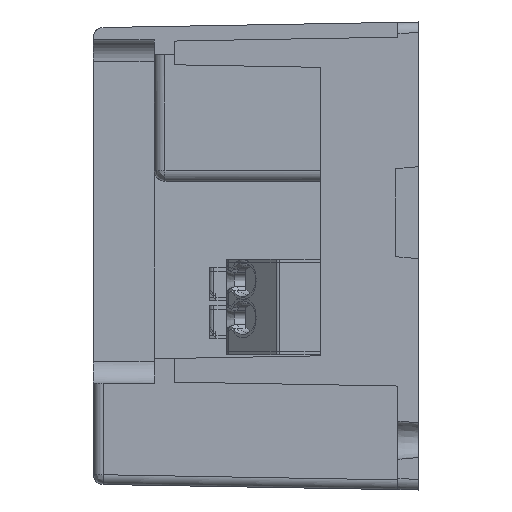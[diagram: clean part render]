
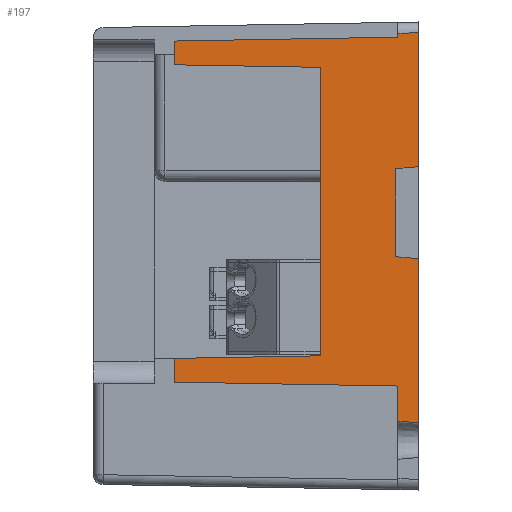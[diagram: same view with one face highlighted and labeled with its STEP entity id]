
A CAD part, left-side view. The second image highlights one B-rep face of the part: STEP entity #197.
In plain terms, the highlighted planar face has unit normal (-1, 0.018, 0).
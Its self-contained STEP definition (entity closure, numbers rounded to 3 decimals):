
#45 = DIRECTION ( 'NONE',  ( -0.017, -0.996, -0.087 ) ) ;
#197 = ADVANCED_FACE ( 'NONE', ( #11806 ), #32212, .T. ) ;
#217 = CARTESIAN_POINT ( 'NONE',  ( -48.5, 0., 8.245 ) ) ;
#605 = VERTEX_POINT ( 'NONE', #20119 ) ;
#730 = CARTESIAN_POINT ( 'NONE',  ( -48.343, 9., -9.214 ) ) ;
#870 = VECTOR ( 'NONE', #31790, 1000. ) ;
#947 = CARTESIAN_POINT ( 'NONE',  ( -48.343, 9., -9.214 ) ) ;
#1086 = CARTESIAN_POINT ( 'NONE',  ( -48.5, 0., -0.245 ) ) ;
#1111 = CARTESIAN_POINT ( 'NONE',  ( -48.107, 22.5, 17.65 ) ) ;
#1253 = EDGE_CURVE ( 'NONE', #9245, #27308, #31420, .T. ) ;
#1418 = EDGE_CURVE ( 'NONE', #3317, #21818, #9417, .T. ) ;
#1659 = ORIENTED_EDGE ( 'NONE', *, *, #13571, .T. ) ;
#1707 = CARTESIAN_POINT ( 'NONE',  ( -48.107, 22.5, -9.45 ) ) ;
#2624 = ORIENTED_EDGE ( 'NONE', *, *, #23118, .T. ) ;
#3317 = VERTEX_POINT ( 'NONE', #32512 ) ;
#3569 = ORIENTED_EDGE ( 'NONE', *, *, #30100, .T. ) ;
#3661 = ORIENTED_EDGE ( 'NONE', *, *, #1253, .T. ) ;
#4445 = EDGE_CURVE ( 'NONE', #10656, #32603, #29841, .T. ) ;
#4734 = ORIENTED_EDGE ( 'NONE', *, *, #27385, .T. ) ;
#4932 = VECTOR ( 'NONE', #16494, 1000. ) ;
#5038 = EDGE_CURVE ( 'NONE', #27308, #28873, #25327, .T. ) ;
#5562 = EDGE_CURVE ( 'NONE', #13854, #21818, #29356, .T. ) ;
#5897 = LINE ( 'NONE', #947, #26436 ) ;
#6393 = VECTOR ( 'NONE', #25534, 1000. ) ;
#7340 = CARTESIAN_POINT ( 'NONE',  ( -48.467, 1.9, 20.202 ) ) ;
#7711 = EDGE_CURVE ( 'NONE', #25930, #605, #19741, .T. ) ;
#7887 = LINE ( 'NONE', #20974, #32109 ) ;
#7891 = CARTESIAN_POINT ( 'NONE',  ( -48.467, 1.9, 0. ) ) ;
#7929 = DIRECTION ( 'NONE',  ( 0., 0., -1. ) ) ;
#8362 = DIRECTION ( 'NONE',  ( -1., 0.017, 0. ) ) ;
#8425 = VECTOR ( 'NONE', #18174, 1000. ) ;
#8471 = DIRECTION ( 'NONE',  ( -0.017, -1., 0. ) ) ;
#8488 = CARTESIAN_POINT ( 'NONE',  ( -48.107, 22.5, 22.925 ) ) ;
#8722 = CARTESIAN_POINT ( 'NONE',  ( -48.107, 22.5, 17.65 ) ) ;
#9060 = ORIENTED_EDGE ( 'NONE', *, *, #18781, .F. ) ;
#9245 = VERTEX_POINT ( 'NONE', #31583 ) ;
#9417 = LINE ( 'NONE', #31304, #32825 ) ;
#9458 = VERTEX_POINT ( 'NONE', #12404 ) ;
#9582 = EDGE_CURVE ( 'NONE', #32603, #19961, #33756, .T. ) ;
#10118 = CARTESIAN_POINT ( 'NONE',  ( -48.463, 2.1, 8.062 ) ) ;
#10656 = VERTEX_POINT ( 'NONE', #31592 ) ;
#10800 = CARTESIAN_POINT ( 'NONE',  ( -48.5, 0., 20.6 ) ) ;
#10914 = VECTOR ( 'NONE', #32582, 1000. ) ;
#11643 = EDGE_CURVE ( 'NONE', #605, #19961, #21728, .T. ) ;
#11806 = FACE_OUTER_BOUND ( 'NONE', #29703, .T. ) ;
#11929 = CARTESIAN_POINT ( 'NONE',  ( -48.107, 22.5, -11.642 ) ) ;
#12077 = CARTESIAN_POINT ( 'NONE',  ( -48.343, 9., 17.414 ) ) ;
#12360 = DIRECTION ( 'NONE',  ( 0., 0., 1. ) ) ;
#12404 = CARTESIAN_POINT ( 'NONE',  ( -48.467, 1.9, -12.002 ) ) ;
#12512 = CARTESIAN_POINT ( 'NONE',  ( -48.5, 0., -15.4 ) ) ;
#12791 = VECTOR ( 'NONE', #12360, 1000. ) ;
#13305 = DIRECTION ( 'NONE',  ( 0., 0., 1. ) ) ;
#13571 = EDGE_CURVE ( 'NONE', #29986, #9458, #13754, .T. ) ;
#13754 = LINE ( 'NONE', #11929, #10914 ) ;
#13854 = VERTEX_POINT ( 'NONE', #15319 ) ;
#14736 = EDGE_CURVE ( 'NONE', #9245, #10656, #23656, .T. ) ;
#14865 = DIRECTION ( 'NONE',  ( 0., 0., 1. ) ) ;
#15159 = DIRECTION ( 'NONE',  ( -0.017, -1., 0.017 ) ) ;
#15319 = CARTESIAN_POINT ( 'NONE',  ( -48.5, 0., -0.245 ) ) ;
#16494 = DIRECTION ( 'NONE',  ( 0.017, 0.996, 0.087 ) ) ;
#16651 = EDGE_CURVE ( 'NONE', #26367, #20553, #7887, .T. ) ;
#18174 = DIRECTION ( 'NONE',  ( 0., 0., 1. ) ) ;
#18347 = CARTESIAN_POINT ( 'NONE',  ( -48.107, 22.5, -11.642 ) ) ;
#18435 = ORIENTED_EDGE ( 'NONE', *, *, #7711, .T. ) ;
#18781 = EDGE_CURVE ( 'NONE', #29986, #22200, #26737, .T. ) ;
#18960 = DIRECTION ( 'NONE',  ( 0.017, 1., -0.017 ) ) ;
#19302 = DIRECTION ( 'NONE',  ( 0., 0., -1. ) ) ;
#19369 = DIRECTION ( 'NONE',  ( -0.017, -1., -0.017 ) ) ;
#19741 = LINE ( 'NONE', #33109, #12791 ) ;
#19961 = VERTEX_POINT ( 'NONE', #217 ) ;
#20119 = CARTESIAN_POINT ( 'NONE',  ( -48.463, 2.1, 8.062 ) ) ;
#20553 = VERTEX_POINT ( 'NONE', #730 ) ;
#20974 = CARTESIAN_POINT ( 'NONE',  ( -48.343, 9., 22.925 ) ) ;
#21096 = AXIS2_PLACEMENT_3D ( 'NONE', #24458, #8362, #8471 ) ;
#21728 = LINE ( 'NONE', #10118, #870 ) ;
#21818 = VERTEX_POINT ( 'NONE', #12512 ) ;
#22200 = VERTEX_POINT ( 'NONE', #1707 ) ;
#22218 = ORIENTED_EDGE ( 'NONE', *, *, #30750, .F. ) ;
#22568 = ORIENTED_EDGE ( 'NONE', *, *, #9582, .F. ) ;
#22733 = VECTOR ( 'NONE', #19369, 1000. ) ;
#22872 = VECTOR ( 'NONE', #15159, 1000. ) ;
#22929 = LINE ( 'NONE', #1086, #4932 ) ;
#23118 = EDGE_CURVE ( 'NONE', #20553, #22200, #5897, .T. ) ;
#23656 = LINE ( 'NONE', #7891, #8425 ) ;
#24239 = DIRECTION ( 'NONE',  ( 0., 0., -1. ) ) ;
#24458 = CARTESIAN_POINT ( 'NONE',  ( -48.5, 0., 22.925 ) ) ;
#24481 = VECTOR ( 'NONE', #24239, 1000. ) ;
#24630 = ORIENTED_EDGE ( 'NONE', *, *, #14736, .F. ) ;
#25130 = CARTESIAN_POINT ( 'NONE',  ( -49.185, -39.24, 21.285 ) ) ;
#25238 = VECTOR ( 'NONE', #14865, 1000. ) ;
#25327 = LINE ( 'NONE', #8488, #24481 ) ;
#25534 = DIRECTION ( 'NONE',  ( 0.017, 1., -0.017 ) ) ;
#25813 = CARTESIAN_POINT ( 'NONE',  ( -48.463, 2.1, -0.062 ) ) ;
#25930 = VERTEX_POINT ( 'NONE', #25813 ) ;
#25985 = DIRECTION ( 'NONE',  ( 0., 0., -1. ) ) ;
#26052 = ORIENTED_EDGE ( 'NONE', *, *, #5038, .T. ) ;
#26342 = CARTESIAN_POINT ( 'NONE',  ( -48.107, 22.5, 19.842 ) ) ;
#26367 = VERTEX_POINT ( 'NONE', #12077 ) ;
#26436 = VECTOR ( 'NONE', #18960, 1000. ) ;
#26642 = ORIENTED_EDGE ( 'NONE', *, *, #5562, .F. ) ;
#26737 = LINE ( 'NONE', #33973, #28756 ) ;
#26831 = VECTOR ( 'NONE', #25985, 1000. ) ;
#26883 = LINE ( 'NONE', #1111, #22733 ) ;
#26919 = VECTOR ( 'NONE', #19302, 1000. ) ;
#26924 = ORIENTED_EDGE ( 'NONE', *, *, #16651, .T. ) ;
#26948 = CARTESIAN_POINT ( 'NONE',  ( -48.5, 0., 0. ) ) ;
#27308 = VERTEX_POINT ( 'NONE', #26342 ) ;
#27385 = EDGE_CURVE ( 'NONE', #13854, #25930, #22929, .T. ) ;
#28756 = VECTOR ( 'NONE', #13305, 1000. ) ;
#28873 = VERTEX_POINT ( 'NONE', #8722 ) ;
#29356 = LINE ( 'NONE', #26948, #26919 ) ;
#29371 = ORIENTED_EDGE ( 'NONE', *, *, #1418, .T. ) ;
#29703 = EDGE_LOOP ( 'NONE', ( #22568, #31155, #24630, #3661, #26052, #3569, #26924, #2624, #9060, #1659, #22218, #29371, #26642, #4734, #18435, #33646 ) ) ;
#29841 = LINE ( 'NONE', #25130, #22872 ) ;
#29986 = VERTEX_POINT ( 'NONE', #18347 ) ;
#30100 = EDGE_CURVE ( 'NONE', #28873, #26367, #26883, .T. ) ;
#30750 = EDGE_CURVE ( 'NONE', #3317, #9458, #32142, .T. ) ;
#30978 = CARTESIAN_POINT ( 'NONE',  ( -48.5, 0., 0. ) ) ;
#31155 = ORIENTED_EDGE ( 'NONE', *, *, #4445, .F. ) ;
#31304 = CARTESIAN_POINT ( 'NONE',  ( -48.467, 1.9, -15.234 ) ) ;
#31420 = LINE ( 'NONE', #7340, #6393 ) ;
#31583 = CARTESIAN_POINT ( 'NONE',  ( -48.467, 1.9, 20.202 ) ) ;
#31592 = CARTESIAN_POINT ( 'NONE',  ( -48.467, 1.9, 20.567 ) ) ;
#31790 = DIRECTION ( 'NONE',  ( -0.017, -0.996, 0.087 ) ) ;
#32109 = VECTOR ( 'NONE', #7929, 1000. ) ;
#32142 = LINE ( 'NONE', #33564, #25238 ) ;
#32212 = PLANE ( 'NONE',  #21096 ) ;
#32512 = CARTESIAN_POINT ( 'NONE',  ( -48.467, 1.9, -15.234 ) ) ;
#32582 = DIRECTION ( 'NONE',  ( -0.017, -1., -0.017 ) ) ;
#32603 = VERTEX_POINT ( 'NONE', #10800 ) ;
#32825 = VECTOR ( 'NONE', #45, 1000. ) ;
#33109 = CARTESIAN_POINT ( 'NONE',  ( -48.463, 2.1, 22.925 ) ) ;
#33564 = CARTESIAN_POINT ( 'NONE',  ( -48.467, 1.9, 0. ) ) ;
#33646 = ORIENTED_EDGE ( 'NONE', *, *, #11643, .T. ) ;
#33756 = LINE ( 'NONE', #30978, #26831 ) ;
#33973 = CARTESIAN_POINT ( 'NONE',  ( -48.107, 22.5, 0. ) ) ;
